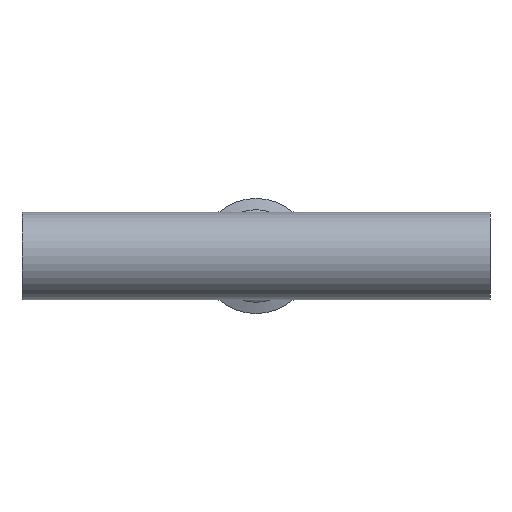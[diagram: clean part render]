
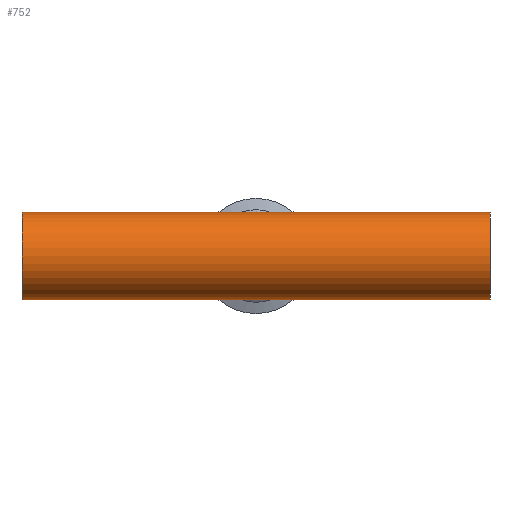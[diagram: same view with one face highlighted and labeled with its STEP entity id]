
A CAD part, front view. The second image highlights one B-rep face of the part: STEP entity #752.
In plain terms, the highlighted cylindrical face has radius 9.525 mm (diameter 19.05 mm), a partial arc.
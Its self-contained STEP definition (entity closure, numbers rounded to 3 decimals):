
#3 = CARTESIAN_POINT ( 'NONE',  ( -50.8, 0., -9.525 ) ) ;
#87 = EDGE_CURVE ( 'NONE', #798, #976, #957, .T. ) ;
#90 = LINE ( 'NONE', #318, #1016 ) ;
#124 = VERTEX_POINT ( 'NONE', #1250 ) ;
#128 = CARTESIAN_POINT ( 'NONE',  ( -50.8, 0., 9.525 ) ) ;
#170 = CYLINDRICAL_SURFACE ( 'NONE', #779, 9.525 ) ;
#180 = CIRCLE ( 'NONE', #264, 9.525 ) ;
#219 = CARTESIAN_POINT ( 'NONE',  ( -50.8, 0., 9.525 ) ) ;
#245 = CARTESIAN_POINT ( 'NONE',  ( 50.8, 0., 9.525 ) ) ;
#264 = AXIS2_PLACEMENT_3D ( 'NONE', #1214, #1208, #1201 ) ;
#304 = DIRECTION ( 'NONE',  ( 1., 0., 0. ) ) ;
#318 = CARTESIAN_POINT ( 'NONE',  ( -50.8, 0., 9.525 ) ) ;
#329 = ORIENTED_EDGE ( 'NONE', *, *, #1120, .T. ) ;
#339 = EDGE_CURVE ( 'NONE', #1024, #798, #180, .T. ) ;
#369 = DIRECTION ( 'NONE',  ( 0., 0., -1. ) ) ;
#412 = DIRECTION ( 'NONE',  ( 1., 0., 0. ) ) ;
#443 = VERTEX_POINT ( 'NONE', #1242 ) ;
#510 = CARTESIAN_POINT ( 'NONE',  ( -50.8, 0., -9.525 ) ) ;
#534 = EDGE_CURVE ( 'NONE', #976, #124, #732, .T. ) ;
#547 = DIRECTION ( 'NONE',  ( -1., 0., 0. ) ) ;
#576 = CARTESIAN_POINT ( 'NONE',  ( 50.8, 0., 0. ) ) ;
#586 = LINE ( 'NONE', #219, #702 ) ;
#637 = CARTESIAN_POINT ( 'NONE',  ( -50.8, 0., 0. ) ) ;
#640 = DIRECTION ( 'NONE',  ( 1., 0., 0. ) ) ;
#648 = FACE_OUTER_BOUND ( 'NONE', #1078, .T. ) ;
#680 = CARTESIAN_POINT ( 'NONE',  ( -50.8, 0., -9.525 ) ) ;
#685 = ORIENTED_EDGE ( 'NONE', *, *, #534, .T. ) ;
#702 = VECTOR ( 'NONE', #1096, 1000. ) ;
#730 = DIRECTION ( 'NONE',  ( 0., 0., -1. ) ) ;
#732 = LINE ( 'NONE', #680, #991 ) ;
#752 = ADVANCED_FACE ( 'NONE', ( #648 ), #170, .T. ) ;
#779 = AXIS2_PLACEMENT_3D ( 'NONE', #637, #640, #730 ) ;
#798 = VERTEX_POINT ( 'NONE', #510 ) ;
#812 = AXIS2_PLACEMENT_3D ( 'NONE', #576, #547, #369 ) ;
#827 = CIRCLE ( 'NONE', #812, 9.525 ) ;
#893 = EDGE_CURVE ( 'NONE', #1024, #443, #90, .T. ) ;
#906 = CARTESIAN_POINT ( 'NONE',  ( 0., 0., -9.525 ) ) ;
#924 = VERTEX_POINT ( 'NONE', #245 ) ;
#930 = EDGE_CURVE ( 'NONE', #443, #924, #586, .T. ) ;
#957 = LINE ( 'NONE', #3, #987 ) ;
#976 = VERTEX_POINT ( 'NONE', #906 ) ;
#987 = VECTOR ( 'NONE', #412, 1000. ) ;
#991 = VECTOR ( 'NONE', #1079, 1000. ) ;
#1004 = ORIENTED_EDGE ( 'NONE', *, *, #339, .T. ) ;
#1016 = VECTOR ( 'NONE', #304, 1000. ) ;
#1024 = VERTEX_POINT ( 'NONE', #128 ) ;
#1070 = ORIENTED_EDGE ( 'NONE', *, *, #930, .F. ) ;
#1078 = EDGE_LOOP ( 'NONE', ( #1239, #1004, #1122, #685, #329, #1070 ) ) ;
#1079 = DIRECTION ( 'NONE',  ( 1., 0., 0. ) ) ;
#1096 = DIRECTION ( 'NONE',  ( 1., 0., 0. ) ) ;
#1120 = EDGE_CURVE ( 'NONE', #124, #924, #827, .T. ) ;
#1122 = ORIENTED_EDGE ( 'NONE', *, *, #87, .T. ) ;
#1201 = DIRECTION ( 'NONE',  ( 0., 0., -1. ) ) ;
#1208 = DIRECTION ( 'NONE',  ( 1., 0., 0. ) ) ;
#1214 = CARTESIAN_POINT ( 'NONE',  ( -50.8, 0., 0. ) ) ;
#1239 = ORIENTED_EDGE ( 'NONE', *, *, #893, .F. ) ;
#1242 = CARTESIAN_POINT ( 'NONE',  ( 0., 0., 9.525 ) ) ;
#1250 = CARTESIAN_POINT ( 'NONE',  ( 50.8, 0., -9.525 ) ) ;
